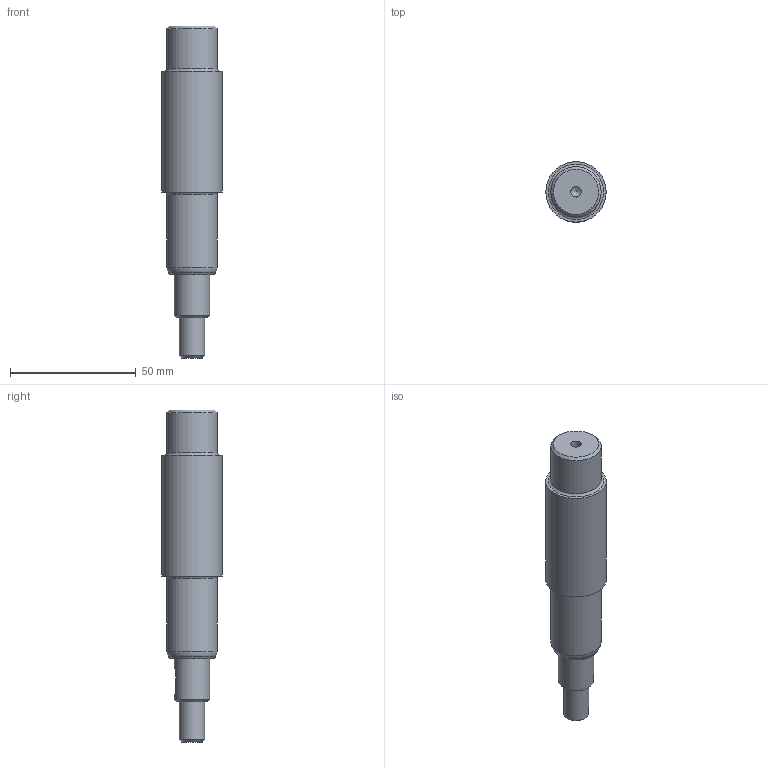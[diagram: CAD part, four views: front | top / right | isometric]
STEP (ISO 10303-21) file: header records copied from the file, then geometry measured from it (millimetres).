
FILE_DESCRIPTION(/* description */ (''),/* implementation_level */ '2;1');
FILE_NAME(/* name */ 'C:\Users\학생용\Desktop\391003E1015-축.stp',/* time_stamp */ '2019-10-26T11:31:00+09:00',/* author */ ('학생용'),/* organization */ (''),/* preprocessor_version */ 'ST-DEVELOPER v15.2',/* originating_system */ 'Autodesk Inventor 2014',/* authorisation */ '');
FILE_SCHEMA (('AUTOMOTIVE_DESIGN { 1 0 10303 214 3 1 1 }'));
Length unit declared in the file: millimetre
Products named in the file (1): 부품1
Bounding box: 24 x 24 x 132 mm (x, y, z)
Volume: 41159.5 mm3; surface area: 9026 mm2
Topology: 1 solids, 1 shells, 26 faces, 51 edges, 32 vertices
Faces by surface type: plane 9, cylinder 8, cone 5, torus 4
Full cylindrical faces by diameter (mm): 4.134 x1, 10 x1, 14 x1, 20 x2, 24 x1
Entity records: 625 total; most frequent: CARTESIAN_POINT 127, DIRECTION 106, ORIENTED_EDGE 68, AXIS2_PLACEMENT_3D 49, EDGE_LOOP 46, EDGE_CURVE 34, VERTEX_POINT 30, ADVANCED_FACE 26
